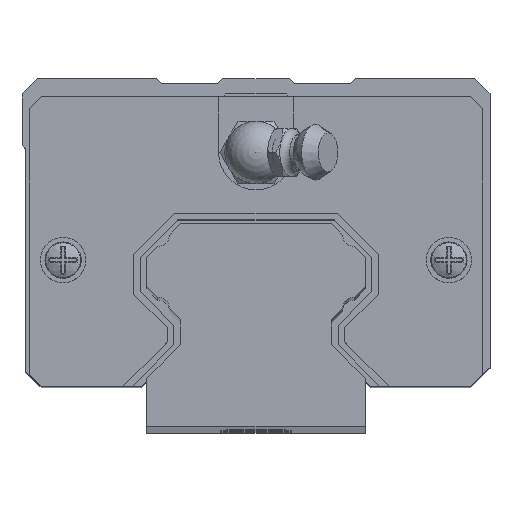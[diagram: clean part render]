
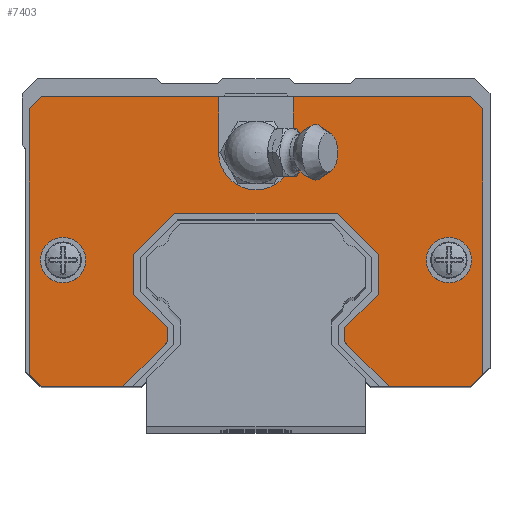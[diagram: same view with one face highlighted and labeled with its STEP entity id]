
A CAD part, top view. The second image highlights one B-rep face of the part: STEP entity #7403.
In plain terms, the highlighted planar face has unit normal (0, 0, 1).
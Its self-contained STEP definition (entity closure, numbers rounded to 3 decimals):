
#560=LINE('',#11935,#1330);
#564=LINE('',#11943,#1334);
#565=LINE('',#11945,#1335);
#566=LINE('',#11947,#1336);
#567=LINE('',#11949,#1337);
#568=LINE('',#11951,#1338);
#569=LINE('',#11953,#1339);
#570=LINE('',#11955,#1340);
#571=LINE('',#11957,#1341);
#572=LINE('',#11959,#1342);
#573=LINE('',#11961,#1343);
#574=LINE('',#11963,#1344);
#575=LINE('',#11965,#1345);
#576=LINE('',#11967,#1346);
#577=LINE('',#11969,#1347);
#578=LINE('',#11971,#1348);
#579=LINE('',#11973,#1349);
#580=LINE('',#11975,#1350);
#581=LINE('',#11979,#1351);
#582=LINE('',#11981,#1352);
#583=LINE('',#11983,#1353);
#584=LINE('',#11985,#1354);
#585=LINE('',#11986,#1355);
#1330=VECTOR('',#9692,1000.);
#1334=VECTOR('',#9698,1000.);
#1335=VECTOR('',#9699,1000.);
#1336=VECTOR('',#9700,1000.);
#1337=VECTOR('',#9701,1000.);
#1338=VECTOR('',#9702,1000.);
#1339=VECTOR('',#9703,1000.);
#1340=VECTOR('',#9704,1000.);
#1341=VECTOR('',#9705,1000.);
#1342=VECTOR('',#9706,1000.);
#1343=VECTOR('',#9707,1000.);
#1344=VECTOR('',#9708,1000.);
#1345=VECTOR('',#9709,1000.);
#1346=VECTOR('',#9710,1000.);
#1347=VECTOR('',#9711,1000.);
#1348=VECTOR('',#9712,1000.);
#1349=VECTOR('',#9713,1000.);
#1350=VECTOR('',#9714,1000.);
#1351=VECTOR('',#9717,1000.);
#1352=VECTOR('',#9718,1000.);
#1353=VECTOR('',#9719,1000.);
#1354=VECTOR('',#9720,1000.);
#1355=VECTOR('',#9721,1000.);
#1797=PLANE('',#8059);
#2085=FACE_BOUND('',#2915,.T.);
#2086=FACE_BOUND('',#2916,.T.);
#2420=FACE_OUTER_BOUND('',#2914,.T.);
#2914=EDGE_LOOP('',(#6450,#6451,#6452,#6453,#6454,#6455,#6456,#6457,#6458,
#6459,#6460,#6461,#6462,#6463,#6464,#6465,#6466,#6467,#6468,#6469,#6470,
#6471,#6472,#6473));
#2915=EDGE_LOOP('',(#6474));
#2916=EDGE_LOOP('',(#6475));
#3239=CIRCLE('',#8036,2.91);
#3241=CIRCLE('',#8039,2.91);
#3257=CIRCLE('',#8060,4.8);
#3791=VERTEX_POINT('',#11884);
#3793=VERTEX_POINT('',#11889);
#3813=VERTEX_POINT('',#11932);
#3814=VERTEX_POINT('',#11934);
#3817=VERTEX_POINT('',#11942);
#3818=VERTEX_POINT('',#11944);
#3819=VERTEX_POINT('',#11946);
#3820=VERTEX_POINT('',#11948);
#3821=VERTEX_POINT('',#11950);
#3822=VERTEX_POINT('',#11952);
#3823=VERTEX_POINT('',#11954);
#3824=VERTEX_POINT('',#11956);
#3825=VERTEX_POINT('',#11958);
#3826=VERTEX_POINT('',#11960);
#3827=VERTEX_POINT('',#11962);
#3828=VERTEX_POINT('',#11964);
#3829=VERTEX_POINT('',#11966);
#3830=VERTEX_POINT('',#11968);
#3831=VERTEX_POINT('',#11970);
#3832=VERTEX_POINT('',#11972);
#3833=VERTEX_POINT('',#11974);
#3834=VERTEX_POINT('',#11976);
#3835=VERTEX_POINT('',#11978);
#3836=VERTEX_POINT('',#11980);
#3837=VERTEX_POINT('',#11982);
#3838=VERTEX_POINT('',#11984);
#4714=EDGE_CURVE('',#3791,#3791,#3239,.T.);
#4716=EDGE_CURVE('',#3793,#3793,#3241,.T.);
#4736=EDGE_CURVE('',#3814,#3813,#560,.T.);
#4740=EDGE_CURVE('',#3813,#3817,#564,.T.);
#4741=EDGE_CURVE('',#3817,#3818,#565,.T.);
#4742=EDGE_CURVE('',#3818,#3819,#566,.T.);
#4743=EDGE_CURVE('',#3819,#3820,#567,.T.);
#4744=EDGE_CURVE('',#3820,#3821,#568,.T.);
#4745=EDGE_CURVE('',#3821,#3822,#569,.T.);
#4746=EDGE_CURVE('',#3822,#3823,#570,.T.);
#4747=EDGE_CURVE('',#3823,#3824,#571,.T.);
#4748=EDGE_CURVE('',#3824,#3825,#572,.T.);
#4749=EDGE_CURVE('',#3825,#3826,#573,.T.);
#4750=EDGE_CURVE('',#3826,#3827,#574,.T.);
#4751=EDGE_CURVE('',#3827,#3828,#575,.T.);
#4752=EDGE_CURVE('',#3828,#3829,#576,.T.);
#4753=EDGE_CURVE('',#3829,#3830,#577,.T.);
#4754=EDGE_CURVE('',#3830,#3831,#578,.T.);
#4755=EDGE_CURVE('',#3831,#3832,#579,.T.);
#4756=EDGE_CURVE('',#3832,#3833,#580,.T.);
#4757=EDGE_CURVE('',#3833,#3834,#3257,.T.);
#4758=EDGE_CURVE('',#3834,#3835,#581,.T.);
#4759=EDGE_CURVE('',#3835,#3836,#582,.T.);
#4760=EDGE_CURVE('',#3836,#3837,#583,.T.);
#4761=EDGE_CURVE('',#3837,#3838,#584,.T.);
#4762=EDGE_CURVE('',#3838,#3814,#585,.T.);
#6450=ORIENTED_EDGE('',*,*,#4740,.T.);
#6451=ORIENTED_EDGE('',*,*,#4741,.T.);
#6452=ORIENTED_EDGE('',*,*,#4742,.T.);
#6453=ORIENTED_EDGE('',*,*,#4743,.T.);
#6454=ORIENTED_EDGE('',*,*,#4744,.T.);
#6455=ORIENTED_EDGE('',*,*,#4745,.T.);
#6456=ORIENTED_EDGE('',*,*,#4746,.T.);
#6457=ORIENTED_EDGE('',*,*,#4747,.T.);
#6458=ORIENTED_EDGE('',*,*,#4748,.T.);
#6459=ORIENTED_EDGE('',*,*,#4749,.T.);
#6460=ORIENTED_EDGE('',*,*,#4750,.T.);
#6461=ORIENTED_EDGE('',*,*,#4751,.T.);
#6462=ORIENTED_EDGE('',*,*,#4752,.T.);
#6463=ORIENTED_EDGE('',*,*,#4753,.T.);
#6464=ORIENTED_EDGE('',*,*,#4754,.T.);
#6465=ORIENTED_EDGE('',*,*,#4755,.T.);
#6466=ORIENTED_EDGE('',*,*,#4756,.T.);
#6467=ORIENTED_EDGE('',*,*,#4757,.T.);
#6468=ORIENTED_EDGE('',*,*,#4758,.T.);
#6469=ORIENTED_EDGE('',*,*,#4759,.T.);
#6470=ORIENTED_EDGE('',*,*,#4760,.T.);
#6471=ORIENTED_EDGE('',*,*,#4761,.T.);
#6472=ORIENTED_EDGE('',*,*,#4762,.T.);
#6473=ORIENTED_EDGE('',*,*,#4736,.T.);
#6474=ORIENTED_EDGE('',*,*,#4716,.T.);
#6475=ORIENTED_EDGE('',*,*,#4714,.F.);
#7403=ADVANCED_FACE('',(#2420,#2085,#2086),#1797,.F.);
#8036=AXIS2_PLACEMENT_3D('',#11885,#9642,#9643);
#8039=AXIS2_PLACEMENT_3D('',#11890,#9648,#9649);
#8059=AXIS2_PLACEMENT_3D('',#11941,#9696,#9697);
#8060=AXIS2_PLACEMENT_3D('',#11977,#9715,#9716);
#9642=DIRECTION('center_axis',(0.,0.,1.));
#9643=DIRECTION('ref_axis',(1.,0.,0.));
#9648=DIRECTION('center_axis',(0.,0.,-1.));
#9649=DIRECTION('ref_axis',(-1.,0.,0.));
#9692=DIRECTION('',(1.,0.,0.));
#9696=DIRECTION('center_axis',(0.,0.,-1.));
#9697=DIRECTION('ref_axis',(-1.,0.,0.));
#9698=DIRECTION('',(0.707,0.707,0.));
#9699=DIRECTION('',(0.,1.,0.));
#9700=DIRECTION('',(-0.707,0.707,0.));
#9701=DIRECTION('',(0.,1.,0.));
#9702=DIRECTION('',(0.707,0.707,0.));
#9703=DIRECTION('',(1.,0.,0.));
#9704=DIRECTION('',(0.707,-0.707,0.));
#9705=DIRECTION('',(0.,-1.,0.));
#9706=DIRECTION('',(-0.707,-0.707,0.));
#9707=DIRECTION('',(0.,-1.,0.));
#9708=DIRECTION('',(0.707,-0.707,0.));
#9709=DIRECTION('',(1.,0.,0.));
#9710=DIRECTION('',(0.707,0.707,0.));
#9711=DIRECTION('',(0.,1.,0.));
#9712=DIRECTION('',(-0.707,0.707,0.));
#9713=DIRECTION('',(-1.,0.,0.));
#9714=DIRECTION('',(0.,-1.,0.));
#9715=DIRECTION('center_axis',(0.,0.,-1.));
#9716=DIRECTION('ref_axis',(-1.,0.,0.));
#9717=DIRECTION('',(0.,1.,0.));
#9718=DIRECTION('',(-1.,0.,0.));
#9719=DIRECTION('',(-0.707,-0.707,0.));
#9720=DIRECTION('',(0.,-1.,0.));
#9721=DIRECTION('',(0.707,-0.707,0.));
#11884=CARTESIAN_POINT('',(-21.825,16.2,49.2));
#11885=CARTESIAN_POINT('Origin',(-24.735,16.2,49.2));
#11889=CARTESIAN_POINT('',(27.645,16.2,49.2));
#11890=CARTESIAN_POINT('Origin',(24.735,16.2,49.2));
#11932=CARTESIAN_POINT('',(-17.076,0.,49.2));
#11934=CARTESIAN_POINT('',(-27.562,0.,49.2));
#11935=CARTESIAN_POINT('',(-27.562,0.,49.2));
#11941=CARTESIAN_POINT('Origin',(0.,-27.562,
49.2));
#11942=CARTESIAN_POINT('',(-11.375,5.701,49.2));
#11943=CARTESIAN_POINT('',(-17.076,0.,49.2));
#11944=CARTESIAN_POINT('',(-11.375,7.504,49.2));
#11945=CARTESIAN_POINT('',(-11.375,5.701,49.2));
#11946=CARTESIAN_POINT('',(-15.68,11.809,49.2));
#11947=CARTESIAN_POINT('',(-11.375,7.504,49.2));
#11948=CARTESIAN_POINT('',(-15.68,16.891,49.2));
#11949=CARTESIAN_POINT('',(-15.68,11.809,49.2));
#11950=CARTESIAN_POINT('',(-10.391,22.18,49.2));
#11951=CARTESIAN_POINT('',(-15.68,16.891,49.2));
#11952=CARTESIAN_POINT('',(10.391,22.18,49.2));
#11953=CARTESIAN_POINT('',(-10.391,22.18,49.2));
#11954=CARTESIAN_POINT('',(15.68,16.891,49.2));
#11955=CARTESIAN_POINT('',(15.68,16.891,49.2));
#11956=CARTESIAN_POINT('',(15.68,11.809,49.2));
#11957=CARTESIAN_POINT('',(15.68,11.809,49.2));
#11958=CARTESIAN_POINT('',(11.375,7.504,49.2));
#11959=CARTESIAN_POINT('',(11.375,7.504,49.2));
#11960=CARTESIAN_POINT('',(11.375,5.701,49.2));
#11961=CARTESIAN_POINT('',(11.375,5.701,49.2));
#11962=CARTESIAN_POINT('',(17.076,0.,49.2));
#11963=CARTESIAN_POINT('',(17.076,0.,49.2));
#11964=CARTESIAN_POINT('',(27.562,0.,49.2));
#11965=CARTESIAN_POINT('',(-27.562,0.,49.2));
#11966=CARTESIAN_POINT('',(29.1,1.538,49.2));
#11967=CARTESIAN_POINT('',(29.1,1.538,49.2));
#11968=CARTESIAN_POINT('',(29.1,35.592,49.2));
#11969=CARTESIAN_POINT('',(29.1,1.538,49.2));
#11970=CARTESIAN_POINT('',(27.562,37.13,49.2));
#11971=CARTESIAN_POINT('',(29.1,35.592,49.2));
#11972=CARTESIAN_POINT('',(4.8,37.13,49.2));
#11973=CARTESIAN_POINT('',(-27.562,37.13,49.2));
#11974=CARTESIAN_POINT('',(4.8,30.,49.2));
#11975=CARTESIAN_POINT('',(4.8,30.,49.2));
#11976=CARTESIAN_POINT('',(-4.8,30.,49.2));
#11977=CARTESIAN_POINT('Origin',(0.,30.,49.2));
#11978=CARTESIAN_POINT('',(-4.8,37.13,49.2));
#11979=CARTESIAN_POINT('',(-4.8,37.13,49.2));
#11980=CARTESIAN_POINT('',(-27.562,37.13,49.2));
#11981=CARTESIAN_POINT('',(-27.562,37.13,49.2));
#11982=CARTESIAN_POINT('',(-29.1,35.592,49.2));
#11983=CARTESIAN_POINT('',(-29.1,35.592,49.2));
#11984=CARTESIAN_POINT('',(-29.1,1.538,49.2));
#11985=CARTESIAN_POINT('',(-29.1,1.538,49.2));
#11986=CARTESIAN_POINT('',(-29.1,1.538,49.2));
